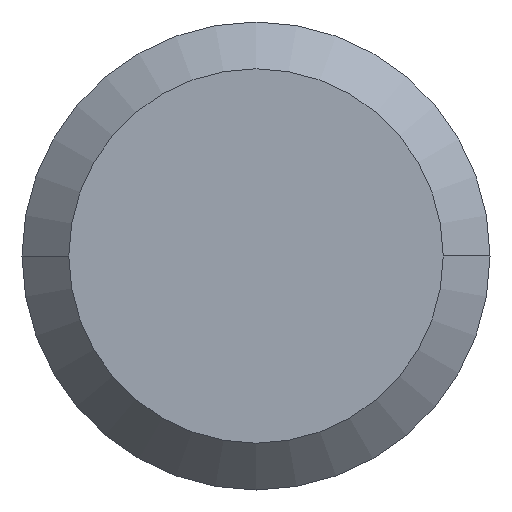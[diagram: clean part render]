
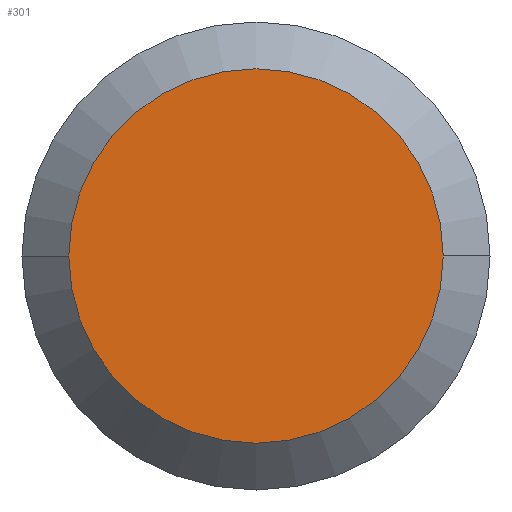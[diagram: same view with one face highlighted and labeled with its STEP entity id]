
A CAD part, left-side view. The second image highlights one B-rep face of the part: STEP entity #301.
In plain terms, the highlighted planar face has unit normal (-1, 0, 0).
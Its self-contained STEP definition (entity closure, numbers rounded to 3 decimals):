
#19 = CIRCLE ( 'NONE', #74, 4. ) ;
#26 = EDGE_LOOP ( 'NONE', ( #362, #240 ) ) ;
#28 = CIRCLE ( 'NONE', #215, 4. ) ;
#30 = DIRECTION ( 'NONE',  ( 0., -1., 0. ) ) ;
#31 = CARTESIAN_POINT ( 'NONE',  ( 0., 0., 0. ) ) ;
#33 = EDGE_CURVE ( 'NONE', #268, #346, #19, .T. ) ;
#51 = DIRECTION ( 'NONE',  ( 0., 1., 0. ) ) ;
#74 = AXIS2_PLACEMENT_3D ( 'NONE', #343, #176, #177 ) ;
#145 = FACE_OUTER_BOUND ( 'NONE', #26, .T. ) ;
#157 = EDGE_CURVE ( 'NONE', #346, #268, #28, .T. ) ;
#172 = DIRECTION ( 'NONE',  ( -1., 0., 0. ) ) ;
#176 = DIRECTION ( 'NONE',  ( 1., 0., 0. ) ) ;
#177 = DIRECTION ( 'NONE',  ( 0., 1., 0. ) ) ;
#215 = AXIS2_PLACEMENT_3D ( 'NONE', #31, #306, #51 ) ;
#231 = CARTESIAN_POINT ( 'NONE',  ( 0., 0., 0. ) ) ;
#240 = ORIENTED_EDGE ( 'NONE', *, *, #33, .F. ) ;
#249 = AXIS2_PLACEMENT_3D ( 'NONE', #231, #172, #30 ) ;
#252 = PLANE ( 'NONE',  #249 ) ;
#268 = VERTEX_POINT ( 'NONE', #273 ) ;
#273 = CARTESIAN_POINT ( 'NONE',  ( 0., -4., 0. ) ) ;
#301 = ADVANCED_FACE ( 'NONE', ( #145 ), #252, .T. ) ;
#306 = DIRECTION ( 'NONE',  ( 1., 0., 0. ) ) ;
#343 = CARTESIAN_POINT ( 'NONE',  ( 0., 0., 0. ) ) ;
#346 = VERTEX_POINT ( 'NONE', #350 ) ;
#350 = CARTESIAN_POINT ( 'NONE',  ( 0., 4., 0. ) ) ;
#362 = ORIENTED_EDGE ( 'NONE', *, *, #157, .F. ) ;
